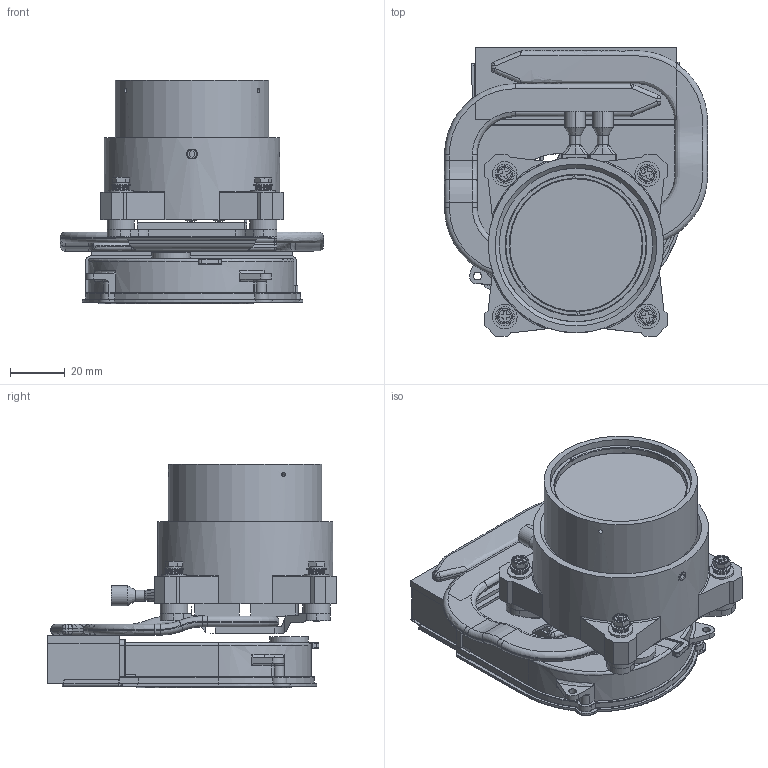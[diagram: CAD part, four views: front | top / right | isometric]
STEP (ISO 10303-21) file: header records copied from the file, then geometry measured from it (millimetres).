
FILE_DESCRIPTION (( 'STEP AP203' ), '1' );
FILE_NAME ('VIL350X -Customer.STEP', '2024-10-08T10:08:36', ( '' ), ( '' ), 'SwSTEP 2.0', 'SolidWorks 2023', '' );
FILE_SCHEMA (( 'CONFIG_CONTROL_DESIGN' ));
Length unit declared in the file: millimetre
Products named in the file (1): VIL350X -Customer
Bounding box: 96 x 105.33 x 81.57 mm (x, y, z)
Surface area: 126254.4 mm2 (no closed solid volume)
Topology: 0 solids, 64 shells, 1194 faces, 3946 edges, 2737 vertices
Faces by surface type: plane 620, cylinder 281, bspline 137, cone 97, torus 50, sphere 9
Full cylindrical faces by diameter (mm): 1.5 x3, 2 x12, 3 x2, 3.3 x2, 4.649 x4, 7 x4, 9 x4, 10 x4, 14 x2, 44 x1, 48.26 x1, 51.68 x1, 56 x1, 64 x1
Entity records: 93975 total; most frequent: CARTESIAN_POINT 61497, ORIENTED_EDGE 6579, DIRECTION 6003, EDGE_CURVE 3848, VERTEX_POINT 2721, VECTOR 2073, LINE 2073, AXIS2_PLACEMENT_3D 1965
